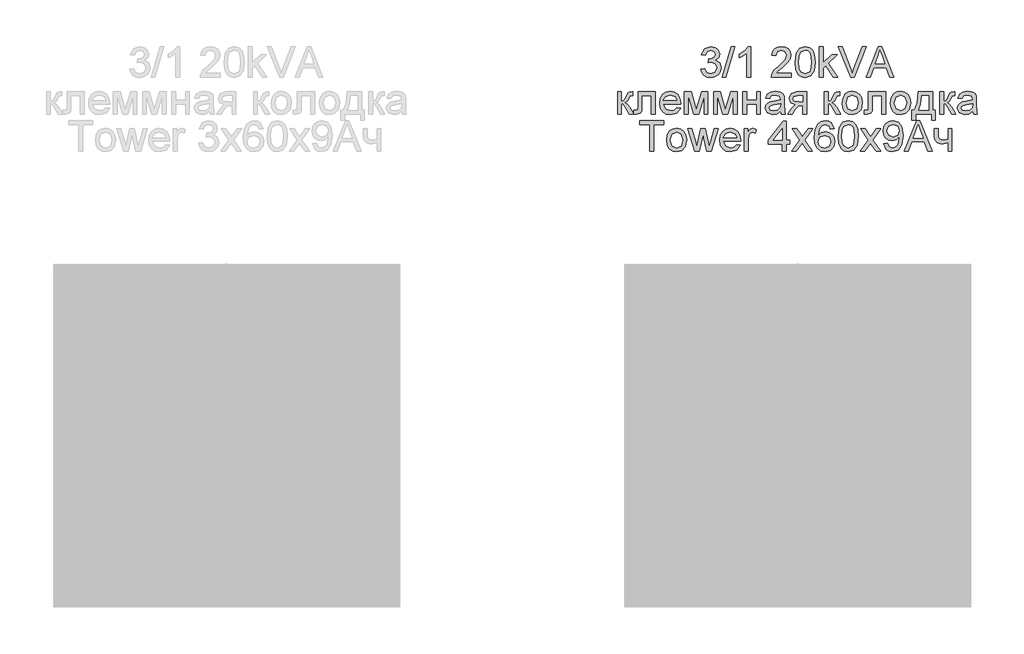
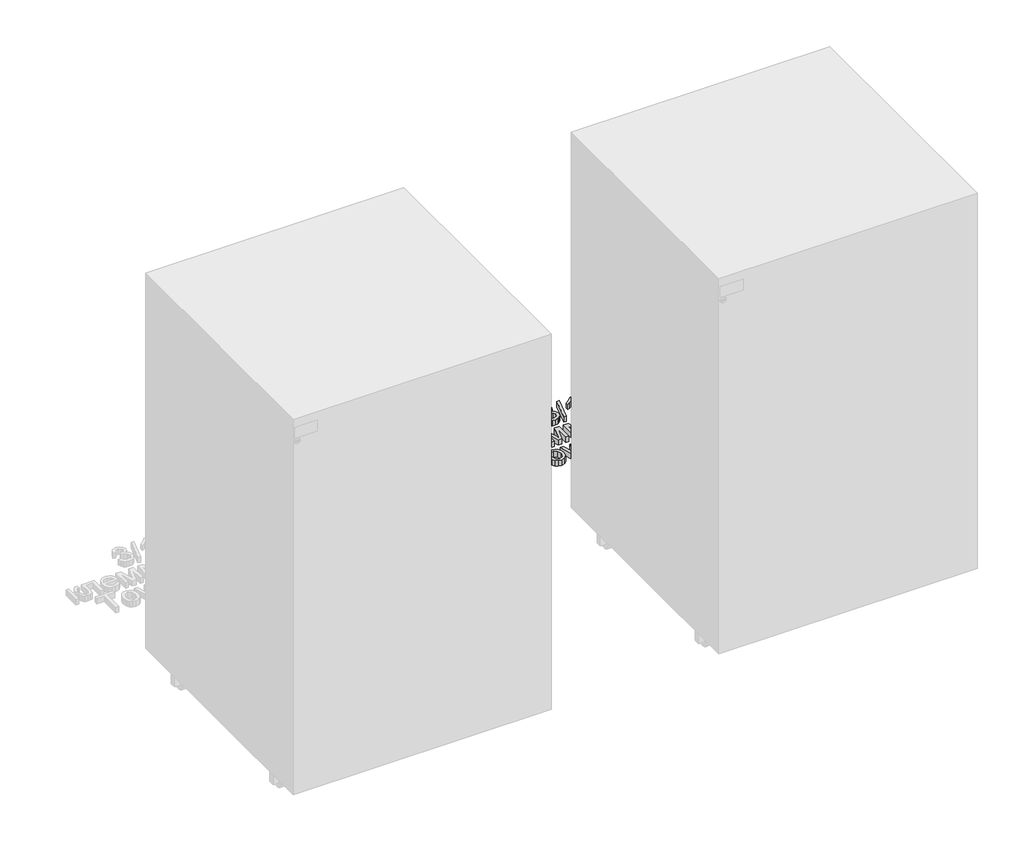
# One storey, part 61 of 74: 1 proxy.
"""IFC4 building model written with IfcOpenShell, lengths in millimetres."""

import ifcopenshell
import ifcopenshell.guid

model = None  # the IFC model being written
_history = None  # IfcOwnerHistory: only IFC2X3 demands one
_inside = {}  # id of a spatial element -> (the spatial element, [elements in it])
_under = {}  # id of a project, library or spatial element -> (it, [spatial elements below it])
_declared = {}  # id of a project -> (the project, [libraries it declares])
_typed = {}  # id of a type object -> (the type object, [elements of that type])
_made_of = {}  # id of a material, layer set ... -> (it, [elements and type objects made of it])


def new_model(schema):
    """Start an empty IFC model of exactly this schema.

    Asked for "IFC4X3", IfcOpenShell would pick the latest addendum, in which some entities
    have other attributes; the version numbers below select the first issue.
    IFC2X3 requires an IfcOwnerHistory on every rooted entity: one is made here for all.
    """
    global model, _history
    if schema == "IFC4X3":
        model = ifcopenshell.file(schema_version=(4, 3, 0, 0))
    else:
        model = ifcopenshell.file(schema=schema)
    _inside.clear()
    _under.clear()
    _declared.clear()
    _typed.clear()
    _made_of.clear()
    _history = None
    if model.schema == "IFC2X3":
        org = make("IfcOrganization", Name="unknown")
        user = make(
            "IfcPersonAndOrganization",
            ThePerson=make("IfcPerson", FamilyName="unknown"),
            TheOrganization=org,
        )
        app = make(
            "IfcApplication",
            ApplicationDeveloper=org,
            Version="unknown",
            ApplicationFullName="unknown",
            ApplicationIdentifier="unknown",
        )
        _history = make(
            "IfcOwnerHistory",
            OwningUser=user,
            OwningApplication=app,
            ChangeAction="ADDED",
            CreationDate=0,
        )
    return model


def make(cls, **values):
    """One entity of the class cls with the attributes given. An attribute that is None is left unset."""
    return model.create_entity(
        cls, **{name: value for name, value in values.items() if value is not None}
    )


def rooted(cls, **values):
    """An entity with a GlobalId (a new one), such as an element, a storey or a relation."""
    return make(cls, GlobalId=ifcopenshell.guid.new(), OwnerHistory=_history, **values)


def si_unit(unit_type, name, prefix=None):
    """IfcSIUnit, for example si_unit("LENGTHUNIT", "METRE", prefix="MILLI")."""
    return make("IfcSIUnit", UnitType=unit_type, Prefix=prefix, Name=name)


def assignment(units):
    """IfcUnitAssignment: the units of a project."""
    return None if units is None else make("IfcUnitAssignment", Units=units)


def point(xyz):
    """IfcCartesianPoint."""
    return None if xyz is None else make("IfcCartesianPoint", Coordinates=xyz)


def direction(xyz):
    """IfcDirection."""
    return None if xyz is None else make("IfcDirection", DirectionRatios=xyz)


def frame(location, z_axis=None, x_axis=None):
    """IfcAxis2Placement3D, a coordinate frame: its origin and axes. An axis left out is left unset."""
    return make(
        "IfcAxis2Placement3D",
        Location=point(location),
        Axis=direction(z_axis),
        RefDirection=direction(x_axis),
    )


def origin():
    """The frame at (0, 0, 0) with its axes left unset."""
    return frame((0.0, 0.0, 0.0))


def origin_with_axes():
    """The frame at (0, 0, 0) with the z axis (0, 0, 1) and the x axis (1, 0, 0) written out."""
    return frame((0.0, 0.0, 0.0), z_axis=(0.0, 0.0, 1.0), x_axis=(1.0, 0.0, 0.0))


def place(relative_to, where):
    """IfcLocalPlacement: puts the frame where relative to a parent placement (None: the world)."""
    return make(
        "IfcLocalPlacement", PlacementRelTo=relative_to, RelativePlacement=where
    )


def context(
    kind, dimensions, precision=None, world=None, true_north=None, identifier=None
):
    """IfcGeometricRepresentationContext, for example the 3D "Model" context."""
    return make(
        "IfcGeometricRepresentationContext",
        ContextIdentifier=identifier,
        ContextType=kind,
        CoordinateSpaceDimension=dimensions,
        Precision=precision,
        WorldCoordinateSystem=world,
        TrueNorth=true_north,
    )


def project(units=None, contexts=None):
    """IfcProject with its units and contexts."""
    return rooted(
        "IfcProject",
        Name="project",
        RepresentationContexts=contexts,
        UnitsInContext=assignment(units),
    )


def spatial(cls, under=None, at=None, **own):
    """A site, building, storey or space (cls), placed at a placement, below another one or the project."""
    s = rooted(cls, ObjectPlacement=at, **own)
    if under is not None:
        _under.setdefault(under.id(), (under, []))[1].append(s)
    return s


def polyline(points):
    """IfcPolyline through the points."""
    return make("IfcPolyline", Points=[point(p) for p in points])


def outline(outer, holes=None, kind="AREA"):
    """IfcArbitraryClosedProfileDef: a profile drawn as a closed curve; with holes, ...WithVoids."""
    if holes is None:
        return make("IfcArbitraryClosedProfileDef", ProfileType=kind, OuterCurve=outer)
    return make(
        "IfcArbitraryProfileDefWithVoids",
        ProfileType=kind,
        OuterCurve=outer,
        InnerCurves=holes,
    )


def extrude(swept, where, along, depth):
    """IfcExtrudedAreaSolid: the profile swept, set in the frame where, extruded along a direction by depth."""
    return make(
        "IfcExtrudedAreaSolid",
        SweptArea=swept,
        Position=where,
        ExtrudedDirection=direction(along),
        Depth=depth,
    )


def shape(context_of_items, identifier, shape_type, items):
    """IfcShapeRepresentation: the items that make up one representation, for example the "Body"."""
    return make(
        "IfcShapeRepresentation",
        ContextOfItems=context_of_items,
        RepresentationIdentifier=identifier,
        RepresentationType=shape_type,
        Items=items,
    )


def made_of(thing, what):
    """Note that an element or type object is made of a material, layer set ...; save() writes the relation."""
    if what is not None:
        _made_of.setdefault(what.id(), (what, []))[1].append(thing)
    return thing


def element(
    cls,
    number,
    at=None,
    inside=None,
    cuts=None,
    type_object=None,
    material=None,
    context=None,
    identifier="Body",
    shape_type=None,
    held_by="IfcProductDefinitionShape",
    body=None,
    shapes=None,
    **own,
):
    """One element of the class cls, such as IfcWall. Its Tag is "e" and its number.

    at: its placement. inside: the storey or other place that contains it. cuts: it is an
    opening in that element (IfcRelVoidsElement). A single representation is given by context,
    identifier, shape_type and body (its items); several are given by shapes. held_by: the class
    of the entity that holds the representations. save() writes the other relations.
    """
    e = rooted(cls, Tag="e%d" % number, ObjectPlacement=at, **own)
    if body is not None:
        shapes = [shape(context, identifier, shape_type, body)]
    if shapes is not None:
        e.Representation = make(held_by, Representations=shapes)
    if inside is not None:
        _inside.setdefault(inside.id(), (inside, []))[1].append(e)
    if cuts is not None:
        rooted(
            "IfcRelVoidsElement", RelatingBuildingElement=cuts, RelatedOpeningElement=e
        )
    if type_object is not None:
        _typed.setdefault(type_object.id(), (type_object, []))[1].append(e)
    return made_of(e, material)


def aggregate(whole, parts):
    """IfcRelAggregates: a whole, such as a stair, and the parts it consists of."""
    return rooted("IfcRelAggregates", RelatingObject=whole, RelatedObjects=parts)


def save(model, path):
    """Write the relations noted so far, then the file.

    IfcRelAggregates (storeys below a building ...), IfcRelContainedInSpatialStructure (elements
    in a storey), IfcRelDefinesByType, IfcRelAssociatesMaterial and IfcRelDeclares: one each for
    every whole, place, type object, material and project.
    """
    for whole, parts in _under.values():
        aggregate(whole, parts)
    for where, things in _inside.values():
        rooted(
            "IfcRelContainedInSpatialStructure",
            RelatedElements=things,
            RelatingStructure=where,
        )
    for kind, things in _typed.values():
        rooted("IfcRelDefinesByType", RelatedObjects=things, RelatingType=kind)
    for what, things in _made_of.values():
        rooted("IfcRelAssociatesMaterial", RelatedObjects=things, RelatingMaterial=what)
    for by, libraries in _declared.values():
        rooted("IfcRelDeclares", RelatingContext=by, RelatedDefinitions=libraries)
    model.write(path)


model = new_model("IFC4")

# Units and contexts
model_context = context("Model", 3, world=origin())
ifc_project = project(units=[si_unit("LENGTHUNIT", "METRE", prefix="MILLI")], contexts=[model_context])

# Site, building, storey
site = spatial("IfcSite", under=ifc_project)
building = spatial("IfcBuilding", under=site)
storey = spatial("IfcBuildingStorey", under=building, Name="Этаж 01", Elevation=0.0)

# Proxy
placement = place(None, origin())
element("IfcBuildingElementProxy", 1, Name="80 мм Arial", ObjectType="80 мм Arial", at=placement, inside=storey, context=model_context, shape_type="SweptSolid", body=[
    extrude(outline(polyline([(17598.3137414, -15105.2863601), (17608.3593724, -15104.0306562), (17613.9021278, -15114.6060373), (17624.2714949, -15117.8433988), (17636.475367, -15113.3895741), (17641.0076732, -15102.3629245), (17636.5146077, -15091.9739369), (17625.0955506, -15087.8634688), (17618.0518367, -15088.9622097), (17619.1701979, -15078.9165786), (17620.7790685, -15079.0343009), (17632.1785053, -15076.150106), (17637.2405615, -15067.2816974), (17633.5715518, -15059.423738), (17624.114532, -15056.3139089), (17614.5397899, -15059.4531685), (17609.6150762, -15068.8709476), (17599.5694452, -15067.6152437), (17607.7903816, -15051.8600842), (17623.7613652, -15046.2682778), (17635.8769456, -15049.0249403), (17644.3529468, -15056.5591635), (17647.2861926, -15066.6930862), (17644.5000996, -15075.9539023), (17636.2595429, -15082.6052088), (17647.2077111, -15089.4723394), (17651.0533042, -15102.5395078), (17649.1305076, -15112.330074), (17643.3621179, -15120.5117696), (17634.6555774, -15126.0447148), (17623.9183282, -15127.8890298), (17614.2062435, -15126.3144949), (17606.2992332, -15121.5908901), (17600.8006236, -15114.3656877), (17598.3137414, -15105.2863601)])), origin_with_axes(), (0.0, 0.0, 1.0), 20.0),
    extrude(outline(polyline([(17654.8204158, -15126.633326), (17677.4230856, -15046.2682778), (17686.487698, -15046.2682778), (17663.8850282, -15126.633326), (17654.8204158, -15126.633326)])), origin_with_axes(), (0.0, 0.0, 1.0), 20.0),
    extrude(outline(polyline([(17728.9069446, -15126.633326), (17718.8613135, -15126.633326), (17718.8613135, -15064.0050951), (17709.3454326, -15070.783934), (17698.7700515, -15075.8558004), (17698.7700515, -15066.3595399), (17713.4951415, -15056.9613812), (17722.4322214, -15046.2682778), (17728.9069446, -15046.2682778), (17728.9069446, -15126.633326)])), origin_with_axes(), (0.0, 0.0, 1.0), 20.0),
    extrude(outline(polyline([(17835.6417741, -15116.5876949), (17835.6417741, -15126.633326), (17782.9022113, -15126.633326), (17783.9813318, -15119.7073343), (17790.0832678, -15109.0436615), (17802.6599269, -15097.3989701), (17820.0043367, -15080.6627918), (17824.3404392, -15069.2829755), (17820.2495914, -15060.0712103), (17809.5662983, -15056.3139089), (17798.4317365, -15059.9829186), (17794.2035461, -15070.1266515), (17784.1579151, -15068.8709476), (17786.5932939, -15059.1539579), (17791.8589116, -15052.0562879), (17799.6800828, -15047.7152804), (17809.7821224, -15046.2682778), (17819.9577384, -15047.8771484), (17827.7641943, -15052.7037602), (17832.7306012, -15059.9142473), (17834.3860702, -15068.6747439), (17832.6006163, -15078.200435), (17826.6654534, -15088.0498623), (17812.2739098, -15101.813554), (17800.71751, -15111.4765878), (17796.1852038, -15116.5876949), (17835.6417741, -15116.5876949)])), origin_with_axes(), (0.0, 0.0, 1.0), 20.0),
    extrude(outline(polyline([(17845.6874051, -15087.0982742), (17848.6402712, -15063.9756645), (17857.410578, -15050.643621), (17872.0571865, -15046.2682778), (17883.7901696, -15048.8581671), (17891.8933837, -15056.323719), (17896.6022732, -15068.2136651), (17898.4269679, -15087.0982742), (17895.5035323, -15110.122782), (17886.7626561, -15123.4842561), (17872.0571865, -15127.8890298), (17861.619148, -15125.9760435), (17853.6925173, -15120.2370843), (17847.6886832, -15106.6450709), (17845.6874051, -15087.0982742)]), holes=[polyline([(17855.7330361, -15087.0786538), (17856.9102585, -15102.8804118), (17860.4419257, -15112.0259582), (17872.0571865, -15117.8433988), (17883.6724474, -15112.0063378), (17887.2041145, -15102.8558863), (17888.3813369, -15087.0786538), (17887.2433553, -15071.6325151), (17883.8294104, -15062.4158449), (17878.5809606, -15057.8393929), (17871.9394643, -15056.3139089), (17860.5988886, -15061.6898911), (17856.9494992, -15071.4804572), (17855.7330361, -15087.0786538)])]), origin_with_axes(), (0.0, 0.0, 1.0), 20.0),
    extrude(outline(polyline([(17909.7283028, -15126.633326), (17909.7283028, -15046.2682778), (17919.7739338, -15046.2682778), (17919.7739338, -15089.452719), (17942.2981221, -15067.6152437), (17956.1893463, -15067.6152437), (17933.3904728, -15089.7274042), (17957.4450501, -15126.633326), (17945.712067, -15126.633326), (17926.1897958, -15096.712257), (17919.7739338, -15102.9319153), (17919.7739338, -15126.633326), (17909.7283028, -15126.633326)])), origin_with_axes(), (0.0, 0.0, 1.0), 20.0),
    extrude(outline(polyline([(18032.2182919, -15126.633326), (18064.2976019, -15046.2682778), (18072.8520846, -15046.2682778), (18104.9313946, -15126.633326), (18094.3167727, -15126.633326), (18085.1148177, -15101.5192484), (18052.0152484, -15101.5192484), (18042.8329138, -15126.633326), (18032.2182919, -15126.633326)]), holes=[polyline([(18055.7038785, -15091.4736174), (18081.445808, -15091.4736174), (18074.2058903, -15071.7159017), (18068.5748432, -15056.3139089), (18063.5716481, -15069.9893089), (18055.7038785, -15091.4736174)])]), origin_with_axes(), (0.0, 0.0, 1.0), 20.0),
    extrude(outline(polyline([(17991.2313326, -15126.633326), (17959.2501245, -15046.2682778), (17970.0020889, -15046.2682778), (17991.4079159, -15104.1679988), (17995.7440184, -15117.2155469), (18000.0212597, -15104.1679988), (18021.4859479, -15046.2682778), (18032.2379123, -15046.2682778), (18001.6105099, -15126.633326), (17991.2313326, -15126.633326)])), origin_with_axes(), (0.0, 0.0, 1.0), 20.0),
    extrude(outline(polyline([(17379.1934148, -15165.195098), (17389.2390459, -15165.195098), (17389.2390459, -15190.3091756), (17395.9688338, -15188.5041012), (17401.4821587, -15177.9875813), (17406.0635158, -15168.9131587), (17410.1053126, -15165.9602926), (17417.4531423, -15165.195098), (17419.3759389, -15165.195098), (17419.3759389, -15175.2995902), (17416.6683274, -15175.240729), (17411.7632341, -15176.3002292), (17408.3100485, -15182.9122949), (17404.2584414, -15190.0639209), (17398.5783434, -15193.5661575), (17404.9157239, -15197.4755168), (17411.1353822, -15205.7111684), (17421.8873467, -15224.2131802), (17410.4682895, -15224.2131802), (17399.9321492, -15206.1035759), (17394.6346485, -15198.4418202), (17389.2390459, -15196.5876949), (17389.2390459, -15224.2131802), (17379.1934148, -15224.2131802), (17379.1934148, -15165.195098)])), origin_with_axes(), (0.0, 0.0, 1.0), 20.0),
    extrude(outline(polyline([(17433.1886815, -15165.195098), (17478.3940211, -15165.195098), (17478.3940211, -15224.1543191), (17468.3483901, -15224.1543191), (17468.3483901, -15175.240729), (17443.2343126, -15175.240729), (17443.2343126, -15203.3959644), (17442.5574097, -15216.3846514), (17438.839349, -15221.8685457), (17430.0494219, -15224.2131802), (17421.8873467, -15223.7030505), (17421.8873467, -15214.1675492), (17426.3804121, -15214.1675492), (17430.9225285, -15213.5495075), (17432.737413, -15211.5874702), (17433.1886815, -15202.8269736), (17433.1886815, -15165.195098)])), origin_with_axes(), (0.0, 0.0, 1.0), 20.0),
    extrude(outline(polyline([(17534.7829733, -15206.633326), (17544.6324006, -15207.8890298), (17535.4206355, -15220.8580964), (17518.2626192, -15225.4688841), (17506.4756801, -15223.4798688), (17497.4061626, -15217.5128228), (17491.6230577, -15207.9552486), (17489.695356, -15195.1946485), (17491.642678, -15182.0048527), (17497.4846441, -15172.1407101), (17506.4315342, -15165.9897231), (17517.6936284, -15163.9393941), (17528.6050084, -15165.984818), (17537.3238116, -15172.1210897), (17543.0406979, -15181.9656119), (17544.9463266, -15195.1357873), (17544.8874655, -15197.8433988), (17499.740987, -15197.8433988), (17505.5191869, -15210.8909469), (17518.4588229, -15215.4232531), (17528.3082502, -15213.3238732), (17534.7829733, -15206.633326)]), holes=[polyline([(17499.740987, -15187.7977678), (17534.9006956, -15187.7977678), (17530.8785191, -15178.6939147), (17517.6543876, -15173.9850252), (17505.2837424, -15177.7423266), (17499.740987, -15187.7977678)])]), origin_with_axes(), (0.0, 0.0, 1.0), 20.0),
    extrude(outline(polyline([(17554.9919576, -15165.195098), (17572.2775063, -15165.195098), (17585.5997396, -15212.4409564), (17599.9618527, -15165.195098), (17616.5214476, -15165.195098), (17616.5214476, -15224.2131802), (17606.4758166, -15224.2131802), (17606.4758166, -15176.6926366), (17592.035222, -15224.2131802), (17578.8503313, -15224.2131802), (17565.0375886, -15174.4166734), (17565.0375886, -15224.2131802), (17554.9919576, -15224.2131802), (17554.9919576, -15165.195098)])), origin_with_axes(), (0.0, 0.0, 1.0), 20.0),
    extrude(outline(polyline([(17631.5898941, -15165.195098), (17648.8754428, -15165.195098), (17662.1976761, -15212.4409564), (17676.5597892, -15165.195098), (17693.1193841, -15165.195098), (17693.1193841, -15224.2131802), (17683.073753, -15224.2131802), (17683.073753, -15176.6926366), (17668.6331585, -15224.2131802), (17655.4482678, -15224.2131802), (17641.6355251, -15174.4166734), (17641.6355251, -15224.2131802), (17631.5898941, -15224.2131802), (17631.5898941, -15165.195098)])), origin_with_axes(), (0.0, 0.0, 1.0), 20.0),
    extrude(outline(polyline([(17708.1878306, -15165.195098), (17718.2334616, -15165.195098), (17718.2334616, -15187.7977678), (17744.603243, -15187.7977678), (17744.603243, -15165.195098), (17754.648874, -15165.195098), (17754.648874, -15224.2131802), (17744.603243, -15224.2131802), (17744.603243, -15197.8433988), (17718.2334616, -15197.8433988), (17718.2334616, -15224.2131802), (17708.1878306, -15224.2131802), (17708.1878306, -15165.195098)])), origin_with_axes(), (0.0, 0.0, 1.0), 20.0),
    extrude(outline(polyline([(17807.3884369, -15216.678957), (17797.6469216, -15223.4872264), (17786.885147, -15225.4688841), (17772.2973996, -15220.7011335), (17767.2059128, -15208.5168818), (17769.1287094, -15200.5706307), (17774.1809554, -15194.802241), (17781.2148592, -15191.5060183), (17789.9066844, -15189.9952496), (17807.3295757, -15186.5420639), (17807.3884369, -15184.3053414), (17804.6219643, -15176.8888404), (17793.5168331, -15173.9850252), (17783.3534798, -15175.9176319), (17778.5072477, -15182.7749523), (17768.4616167, -15181.5192484), (17772.8075293, -15171.7090619), (17781.5582157, -15165.9602926), (17794.8117777, -15163.9393941), (17806.9862192, -15165.7248481), (17813.86316, -15170.2081033), (17816.9435585, -15177.026183), (17817.4340679, -15185.8161101), (17817.4340679, -15198.3142878), (17817.9441976, -15215.7666096), (17819.9454756, -15224.2131802), (17809.8998446, -15224.2131802), (17807.3884369, -15216.678957)]), holes=[polyline([(17807.3884369, -15196.5876949), (17791.1820087, -15199.6680935), (17782.5392344, -15201.2965845), (17778.6249699, -15203.9453348), (17777.2515438, -15207.8105483), (17780.2436507, -15213.2453917), (17789.0237677, -15215.4232531), (17799.1871209, -15213.0197574), (17805.7403255, -15207.2023168), (17807.3295757, -15199.432649), (17807.3884369, -15196.5876949)])]), origin_with_axes(), (0.0, 0.0, 1.0), 20.0),
    extrude(outline(polyline([(17876.4521501, -15165.195098), (17876.4521501, -15224.2131802), (17866.4065191, -15224.2131802), (17866.4065191, -15201.6105105), (17860.932435, -15201.6105105), (17853.4766932, -15202.8858347), (17846.47222, -15211.4599377), (17838.4671078, -15224.2131802), (17826.8518469, -15224.2131802), (17836.9367187, -15208.0852336), (17845.4912014, -15199.7269546), (17833.797459, -15193.6250186), (17829.9911066, -15182.2452022), (17835.1905055, -15169.9236079), (17850.2393317, -15165.195098), (17876.4521501, -15165.195098)]), holes=[polyline([(17866.4065191, -15175.240729), (17853.1627672, -15175.240729), (17842.4402334, -15177.5657432), (17840.0367377, -15183.0103968), (17843.578215, -15189.4949301), (17856.1254436, -15191.5648794), (17866.4065191, -15191.5648794), (17866.4065191, -15175.240729)])]), origin_with_axes(), (0.0, 0.0, 1.0), 20.0),
    extrude(outline(polyline([(17922.9131935, -15165.195098), (17932.9588245, -15165.195098), (17932.9588245, -15190.3091756), (17939.6886125, -15188.5041012), (17945.2019373, -15177.9875813), (17949.7832945, -15168.9131587), (17953.8250913, -15165.9602926), (17961.172921, -15165.195098), (17963.0957176, -15165.195098), (17963.0957176, -15175.2995902), (17960.3881061, -15175.240729), (17955.4830128, -15176.3002292), (17952.0298272, -15182.9122949), (17947.9782201, -15190.0639209), (17942.2981221, -15193.5661575), (17948.6355026, -15197.4755168), (17954.8551609, -15205.7111684), (17965.6071253, -15224.2131802), (17954.1880682, -15224.2131802), (17943.6519279, -15206.1035759), (17938.3544271, -15198.4418202), (17932.9588245, -15196.5876949), (17932.9588245, -15224.2131802), (17922.9131935, -15224.2131802), (17922.9131935, -15165.195098)])), origin_with_axes(), (0.0, 0.0, 1.0), 20.0),
    extrude(outline(polyline([(17969.374237, -15194.7041391), (17971.5471933, -15180.4744636), (17978.0660622, -15170.4729784), (17986.1202254, -15165.5727902), (17995.7636388, -15163.9393941), (18006.3169469, -15165.9284095), (18014.7463497, -15171.8954554), (18020.2719373, -15181.3696431), (18022.1137998, -15193.8800835), (18018.8568179, -15211.7542433), (18009.3703675, -15221.8685457), (17995.7636388, -15225.4688841), (17985.0827982, -15223.4872264), (17976.6632056, -15217.5422534), (17971.1964791, -15207.8694095), (17969.374237, -15194.7041391)]), holes=[polyline([(17979.419868, -15194.6845188), (17984.0698964, -15210.2532848), (17995.7636388, -15215.4232531), (18007.4181404, -15210.2238542), (18012.0681688, -15194.3705928), (18007.3887098, -15179.1549935), (17995.7636388, -15173.9850252), (17984.0698964, -15179.1353731), (17979.419868, -15194.6845188)])]), origin_with_axes(), (0.0, 0.0, 1.0), 20.0),
    extrude(outline(polyline([(18038.4379502, -15165.195098), (18083.6432898, -15165.195098), (18083.6432898, -15224.1543191), (18073.5976588, -15224.1543191), (18073.5976588, -15175.240729), (18048.4835812, -15175.240729), (18048.4835812, -15203.3959644), (18047.8066783, -15216.3846514), (18044.0886176, -15221.8685457), (18035.2986905, -15224.2131802), (18027.1366153, -15223.7030505), (18027.1366153, -15214.1675492), (18031.6296807, -15214.1675492), (18036.1717971, -15213.5495075), (18037.9866816, -15211.5874702), (18038.4379502, -15202.8269736), (18038.4379502, -15165.195098)])), origin_with_axes(), (0.0, 0.0, 1.0), 20.0),
    extrude(outline(polyline([(18096.2003285, -15194.7041391), (18098.3732849, -15180.4744636), (18104.8921538, -15170.4729784), (18112.946317, -15165.5727902), (18122.5897303, -15163.9393941), (18133.1430385, -15165.9284095), (18141.5724413, -15171.8954554), (18147.0980288, -15181.3696431), (18148.9398914, -15193.8800835), (18145.6829094, -15211.7542433), (18136.1964591, -15221.8685457), (18122.5897303, -15225.4688841), (18111.9088897, -15223.4872264), (18103.4892971, -15217.5422534), (18098.0225707, -15207.8694095), (18096.2003285, -15194.7041391)]), holes=[polyline([(18106.2459596, -15194.6845188), (18110.895988, -15210.2532848), (18122.5897303, -15215.4232531), (18134.2442319, -15210.2238542), (18138.8942603, -15194.3705928), (18134.2148014, -15179.1549935), (18122.5897303, -15173.9850252), (18110.895988, -15179.1353731), (18106.2459596, -15194.6845188)])]), origin_with_axes(), (0.0, 0.0, 1.0), 20.0),
    extrude(outline(polyline([(18169.0311534, -15165.195098), (18206.7022697, -15165.195098), (18206.7022697, -15214.1675492), (18214.236493, -15214.1675492), (18214.236493, -15240.5373306), (18204.1908619, -15240.5373306), (18204.1908619, -15224.2131802), (18162.752634, -15224.2131802), (18162.752634, -15240.5373306), (18152.707003, -15240.5373306), (18152.707003, -15214.1675492), (18158.9855224, -15214.1675492), (18166.7453799, -15195.0082549), (18169.0311534, -15165.195098)]), holes=[polyline([(18177.8210805, -15175.240729), (18175.4666358, -15198.1278942), (18170.2868573, -15214.1675492), (18196.6566387, -15214.1675492), (18196.6566387, -15175.240729), (18177.8210805, -15175.240729)])]), origin_with_axes(), (0.0, 0.0, 1.0), 20.0),
    extrude(outline(polyline([(18225.5378279, -15165.195098), (18235.5834589, -15165.195098), (18235.5834589, -15190.3091756), (18242.3132468, -15188.5041012), (18247.8265717, -15177.9875813), (18252.4079288, -15168.9131587), (18256.4497256, -15165.9602926), (18263.7975554, -15165.195098), (18265.7203519, -15165.195098), (18265.7203519, -15175.2995902), (18263.0127404, -15175.240729), (18258.1076472, -15176.3002292), (18254.6544615, -15182.9122949), (18250.6028545, -15190.0639209), (18244.9227565, -15193.5661575), (18251.260137, -15197.4755168), (18257.4797952, -15205.7111684), (18268.2317597, -15224.2131802), (18256.8127025, -15224.2131802), (18246.2765622, -15206.1035759), (18240.9790615, -15198.4418202), (18235.5834589, -15196.5876949), (18235.5834589, -15224.2131802), (18225.5378279, -15224.2131802), (18225.5378279, -15165.195098)])), origin_with_axes(), (0.0, 0.0, 1.0), 20.0),
    extrude(outline(polyline([(18312.1813954, -15216.678957), (18302.4398801, -15223.4872264), (18291.6781055, -15225.4688841), (18277.0903581, -15220.7011335), (18271.9988713, -15208.5168818), (18273.9216679, -15200.5706307), (18278.9739139, -15194.802241), (18286.0078177, -15191.5060183), (18294.6996429, -15189.9952496), (18312.1225342, -15186.5420639), (18312.1813954, -15184.3053414), (18309.4149228, -15176.8888404), (18298.3097916, -15173.9850252), (18288.1464383, -15175.9176319), (18283.3002062, -15182.7749523), (18273.2545752, -15181.5192484), (18277.6004878, -15171.7090619), (18286.3511742, -15165.9602926), (18299.6047362, -15163.9393941), (18311.7791777, -15165.7248481), (18318.6561185, -15170.2081033), (18321.736517, -15177.026183), (18322.2270264, -15185.8161101), (18322.2270264, -15198.3142878), (18322.7371561, -15215.7666096), (18324.7384341, -15224.2131802), (18314.6928031, -15224.2131802), (18312.1813954, -15216.678957)]), holes=[polyline([(18312.1813954, -15196.5876949), (18295.9749672, -15199.6680935), (18287.3321929, -15201.2965845), (18283.4179284, -15203.9453348), (18282.0445023, -15207.8105483), (18285.0366092, -15213.2453917), (18293.8167262, -15215.4232531), (18303.9800794, -15213.0197574), (18310.533284, -15207.2023168), (18312.1225342, -15199.432649), (18312.1813954, -15196.5876949)])]), origin_with_axes(), (0.0, 0.0, 1.0), 20.0),
    extrude(outline(polyline([(17463.9534265, -15321.7930345), (17463.9534265, -15251.4736174), (17437.5836451, -15251.4736174), (17437.5836451, -15241.4279864), (17500.368839, -15241.4279864), (17500.368839, -15251.4736174), (17473.9990575, -15251.4736174), (17473.9990575, -15321.7930345), (17463.9534265, -15321.7930345)])), origin_with_axes(), (0.0, 0.0, 1.0), 20.0),
    extrude(outline(polyline([(17507.9030622, -15292.2839934), (17510.0760185, -15278.0543178), (17516.5948875, -15268.0528327), (17524.6490506, -15263.1526445), (17534.292464, -15261.5192484), (17544.8457722, -15263.5082637), (17553.275175, -15269.4753097), (17558.8007625, -15278.9494974), (17560.6426251, -15291.4599377), (17557.3856431, -15309.3340976), (17547.8991927, -15319.4483999), (17534.292464, -15323.0487384), (17523.6116234, -15321.0670807), (17515.1920308, -15315.1221077), (17509.7253044, -15305.4492637), (17507.9030622, -15292.2839934)]), holes=[polyline([(17517.9486932, -15292.264373), (17522.5987217, -15307.8331391), (17534.292464, -15313.0031074), (17545.9469656, -15307.8037085), (17550.596994, -15291.9504471), (17545.9175351, -15276.7348477), (17534.292464, -15271.5648794), (17522.5987217, -15276.7152274), (17517.9486932, -15292.264373)])]), origin_with_axes(), (0.0, 0.0, 1.0), 20.0),
    extrude(outline(polyline([(17581.7345261, -15321.7930345), (17563.7818847, -15262.7749523), (17574.2199232, -15262.7749523), (17584.4028968, -15297.208707), (17587.4440547, -15309.510681), (17589.9358421, -15297.6599756), (17598.0390561, -15262.7749523), (17610.0074837, -15262.7749523), (17618.071457, -15297.5618738), (17620.2885592, -15308.2942178), (17623.4670596, -15296.9732626), (17633.6696536, -15262.7749523), (17644.1469329, -15262.7749523), (17626.0569489, -15321.7930345), (17613.911938, -15321.7930345), (17606.2011313, -15287.1826964), (17603.9644088, -15276.3914912), (17594.0168797, -15321.7930345), (17581.7345261, -15321.7930345)])), origin_with_axes(), (0.0, 0.0, 1.0), 20.0),
    extrude(outline(polyline([(17692.3738099, -15304.2131802), (17702.2232372, -15305.4688841), (17693.011472, -15318.4379507), (17675.8534558, -15323.0487384), (17664.0665166, -15321.0597231), (17654.9969992, -15315.0926771), (17649.2138942, -15305.5351029), (17647.2861926, -15292.7745027), (17649.2335146, -15279.5847069), (17655.0754807, -15269.7205644), (17664.0223708, -15263.5695774), (17675.2844649, -15261.5192484), (17686.1958449, -15263.5646723), (17694.9146482, -15269.700944), (17700.6315344, -15279.5454662), (17702.5371631, -15292.7156416), (17702.478302, -15295.4232531), (17657.3318236, -15295.4232531), (17663.1100234, -15308.4708012), (17676.0496595, -15313.0031074), (17685.8990868, -15310.9037275), (17692.3738099, -15304.2131802)]), holes=[polyline([(17657.3318236, -15285.3776221), (17692.4915321, -15285.3776221), (17688.4693556, -15276.273769), (17675.2452242, -15271.5648794), (17662.874579, -15275.3221809), (17657.3318236, -15285.3776221)])]), origin_with_axes(), (0.0, 0.0, 1.0), 20.0),
    extrude(outline(polyline([(17712.5827942, -15321.7930345), (17712.5827942, -15262.7749523), (17721.3727213, -15262.7749523), (17721.3727213, -15271.5060183), (17727.6119999, -15263.4616654), (17733.8905193, -15261.5192484), (17743.9753911, -15264.6192674), (17740.6203073, -15273.6250186), (17733.556973, -15271.5648794), (17727.876875, -15273.5465371), (17724.2569161, -15279.0402416), (17722.6284252, -15290.7732247), (17722.6284252, -15321.7930345), (17712.5827942, -15321.7930345)])), origin_with_axes(), (0.0, 0.0, 1.0), 20.0),
    extrude(outline(polyline([(17811.7834004, -15321.7930345), (17811.7834004, -15302.9574764), (17775.367988, -15302.9574764), (17775.367988, -15292.9118453), (17814.2948082, -15242.6836903), (17821.8290314, -15242.6836903), (17821.8290314, -15292.9118453), (17831.8746625, -15292.9118453), (17831.8746625, -15302.9574764), (17821.8290314, -15302.9574764), (17821.8290314, -15321.7930345), (17811.7834004, -15321.7930345)]), holes=[polyline([(17811.7834004, -15292.9118453), (17811.7834004, -15261.8724151), (17787.728823, -15292.9118453), (17811.7834004, -15292.9118453)])]), origin_with_axes(), (0.0, 0.0, 1.0), 20.0),
    extrude(outline(polyline([(17836.897478, -15321.7930345), (17858.3621661, -15292.1270304), (17838.1531818, -15262.7749523), (17850.2393317, -15262.7749523), (17859.9906571, -15276.9016209), (17864.5425836, -15283.5725478), (17868.4862786, -15278.118084), (17879.5914098, -15262.7749523), (17891.6775596, -15262.7749523), (17870.4483159, -15292.1270304), (17890.8927447, -15321.7930345), (17878.8065949, -15321.7930345), (17866.5046209, -15303.9581154), (17864.248278, -15300.7011335), (17848.9836278, -15321.7930345), (17836.897478, -15321.7930345)])), origin_with_axes(), (0.0, 0.0, 1.0), 20.0),
    extrude(outline(polyline([(17948.655123, -15262.7749523), (17938.609492, -15264.0306562), (17934.8031396, -15255.6527569), (17924.7378882, -15251.4736174), (17915.6732759, -15253.9065437), (17908.8159555, -15263.0398273), (17905.9611912, -15280.9434178), (17914.8197896, -15272.9284954), (17925.7973884, -15270.3091756), (17935.0778248, -15272.0995346), (17942.8671129, -15277.4706117), (17948.1498984, -15285.6768328), (17949.9108269, -15295.9726235), (17946.5949838, -15309.8344171), (17937.4715103, -15319.6446037), (17924.30624, -15323.0487384), (17912.9092558, -15320.7923955), (17903.8323807, -15314.0233668), (17897.8947653, -15302.0745596), (17895.9155602, -15284.2788812), (17898.113042, -15264.2710057), (17904.7054873, -15250.5907006), (17913.7063335, -15243.7186649), (17925.3657402, -15241.4279864), (17934.1801928, -15242.8455583), (17941.238622, -15247.0982742), (17948.655123, -15262.7749523)]), holes=[polyline([(17905.9611912, -15295.8156606), (17908.2862054, -15304.517296), (17914.4666229, -15310.8350561), (17923.5214251, -15313.0031074), (17935.3623202, -15308.5100419), (17939.8651959, -15296.3061699), (17935.4211814, -15284.6222377), (17923.1093973, -15280.3548066), (17910.9545761, -15284.6222377), (17905.9611912, -15295.8156606)])]), origin_with_axes(), (0.0, 0.0, 1.0), 20.0),
    extrude(outline(polyline([(17958.700754, -15282.2579828), (17961.6536202, -15259.1353731), (17970.4239269, -15245.8033296), (17985.0705354, -15241.4279864), (17996.8035185, -15244.0178756), (18004.9067326, -15251.4834276), (18009.6156222, -15263.3733737), (18011.4403168, -15282.2579828), (18008.5168813, -15305.2824906), (17999.7760051, -15318.6439646), (17985.0705354, -15323.0487384), (17974.632497, -15321.135752), (17966.7058662, -15315.3967929), (17960.7020321, -15301.8047794), (17958.700754, -15282.2579828)]), holes=[polyline([(17968.746385, -15282.2383624), (17969.9236074, -15298.0401204), (17973.4552746, -15307.1856668), (17985.0705354, -15313.0031074), (17996.6857963, -15307.1660464), (18000.2174634, -15298.0155949), (18001.3946858, -15282.2383624), (18000.2567042, -15266.7922237), (17996.8427593, -15257.5755534), (17991.5943095, -15252.9991014), (17984.9528132, -15251.4736174), (17973.6122376, -15256.8495996), (17969.9628482, -15266.6401658), (17968.746385, -15282.2383624)])]), origin_with_axes(), (0.0, 0.0, 1.0), 20.0),
    extrude(outline(polyline([(18016.4631324, -15321.7930345), (18037.9278205, -15292.1270304), (18017.7188362, -15262.7749523), (18029.804986, -15262.7749523), (18039.5563115, -15276.9016209), (18044.108238, -15283.5725478), (18048.051933, -15278.118084), (18059.1570642, -15262.7749523), (18071.243214, -15262.7749523), (18050.0139703, -15292.1270304), (18070.4583991, -15321.7930345), (18058.3722492, -15321.7930345), (18046.0702753, -15303.9581154), (18043.8139324, -15300.7011335), (18028.5492822, -15321.7930345), (18016.4631324, -15321.7930345)])), origin_with_axes(), (0.0, 0.0, 1.0), 20.0),
    extrude(outline(polyline([(18077.9926223, -15301.7017725), (18088.0382533, -15300.4460686), (18092.5509391, -15310.0306209), (18101.1054218, -15313.0031074), (18109.2380664, -15311.090121), (18114.7513913, -15305.9790138), (18118.0378038, -15297.2479478), (18119.4897114, -15285.5934462), (18119.4308503, -15283.6314089), (18111.3963075, -15291.2441136), (18100.379468, -15294.1675492), (18091.2192063, -15292.3820953), (18083.5942388, -15287.0257334), (18078.4512485, -15278.7508411), (18076.7369184, -15268.2097956), (18078.5346351, -15257.3204886), (18083.9277852, -15248.7856263), (18092.0285467, -15243.2673964), (18101.9490978, -15241.4279864), (18116.26216, -15245.6267462), (18126.1115873, -15257.5951738), (18129.4764813, -15280.0801214), (18126.1213975, -15304.4780553), (18116.1444378, -15318.3006081), (18100.6345329, -15323.0487384), (18092.0457145, -15321.6483343), (18085.1932992, -15317.4471219), (18077.9926223, -15301.7017725)]), holes=[polyline([(18119.4308503, -15267.9743512), (18115.0947478, -15255.9274421), (18103.5775888, -15251.4736174), (18091.491439, -15256.2707986), (18086.7825495, -15268.700305), (18091.2363741, -15279.8348667), (18103.3029036, -15284.1219182), (18114.8887339, -15279.8348667), (18119.4308503, -15267.9743512)])]), origin_with_axes(), (0.0, 0.0, 1.0), 20.0),
    extrude(outline(polyline([(18132.6746021, -15321.7930345), (18164.7539121, -15241.4279864), (18173.3083947, -15241.4279864), (18205.3877047, -15321.7930345), (18194.7730829, -15321.7930345), (18185.5711279, -15296.678957), (18152.4715585, -15296.678957), (18143.2892239, -15321.7930345), (18132.6746021, -15321.7930345)]), holes=[polyline([(18156.1601887, -15286.633326), (18181.9021181, -15286.633326), (18174.6622005, -15266.8756103), (18169.0311534, -15251.4736174), (18164.0279583, -15265.1490174), (18156.1601887, -15286.633326)])]), origin_with_axes(), (0.0, 0.0, 1.0), 20.0),
    extrude(outline(polyline([(18211.0972333, -15262.7749523), (18221.1428643, -15262.7749523), (18221.1428643, -15274.0959076), (18221.9571098, -15284.7105294), (18225.8713742, -15290.4592987), (18233.6410419, -15292.9118453), (18247.5126457, -15289.8706875), (18247.5126457, -15262.7749523), (18257.5582767, -15262.7749523), (18257.5582767, -15321.7930345), (18247.5126457, -15321.7930345), (18247.5126457, -15299.5042907), (18230.9530508, -15302.9574764), (18219.5634243, -15299.3571379), (18212.8630668, -15290.5377802), (18211.0972333, -15279.059862), (18211.0972333, -15262.7749523)])), origin_with_axes(), (0.0, 0.0, 1.0), 20.0),
])

save(model, "model.ifc")
